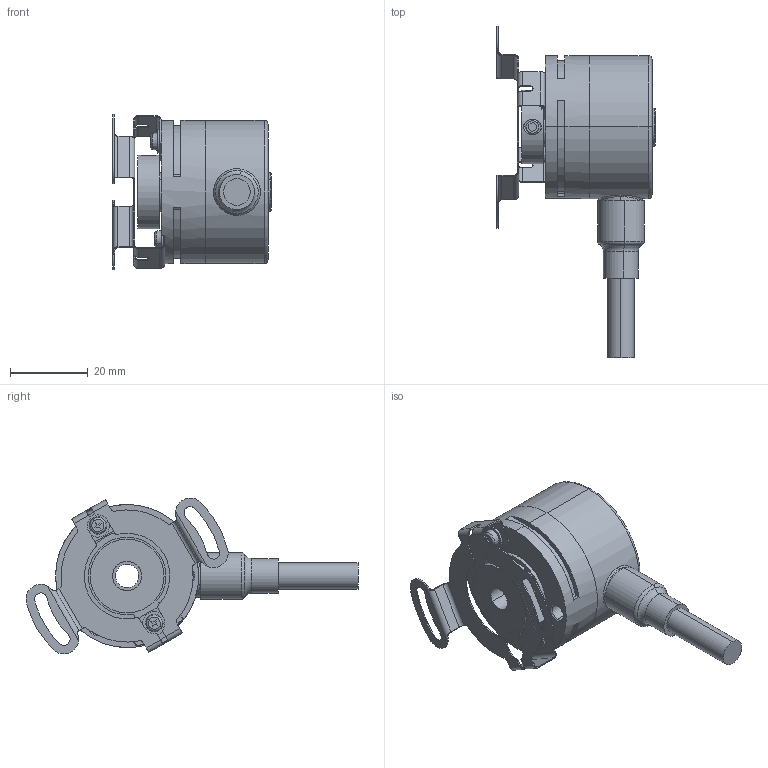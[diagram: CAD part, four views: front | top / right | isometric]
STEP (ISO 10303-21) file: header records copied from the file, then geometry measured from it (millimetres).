
FILE_DESCRIPTION (( 'STEP AP214' ), '1' );
FILE_NAME ('3720.53X1.XXXX.STEP', '2008-11-28T06:41:47', ( 'admin' ), ( 'Fritz Kübler GmbH' ), 'SwSTEP 2.0', 'SolidWorks 2008', '' );
FILE_SCHEMA (( 'AUTOMOTIVE_DESIGN' ));
Length unit declared in the file: millimetre
Products named in the file (1): 3720.53X1.XXXX
Bounding box: 40.7 x 85.4 x 40.1 mm (x, y, z)
Volume: 16491 mm3; surface area: 21042.6 mm2
Topology: 13 solids, 13 shells, 708 faces, 1744 edges, 1082 vertices
Faces by surface type: cylinder 320, plane 201, torus 94, cone 39, bspline 29, sphere 25
Entity records: 30501 total; most frequent: CARTESIAN_POINT 5657, DIRECTION 3765, ORIENTED_EDGE 3442, EDGE_CURVE 1721, AXIS2_PLACEMENT_3D 1538, VERTEX_POINT 1072, CIRCLE 858, EDGE_LOOP 773
